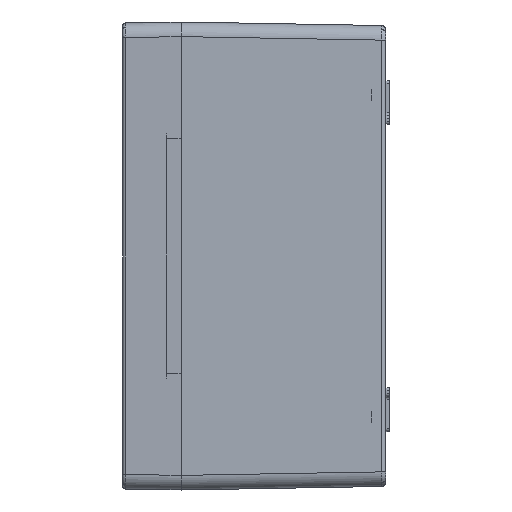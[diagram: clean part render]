
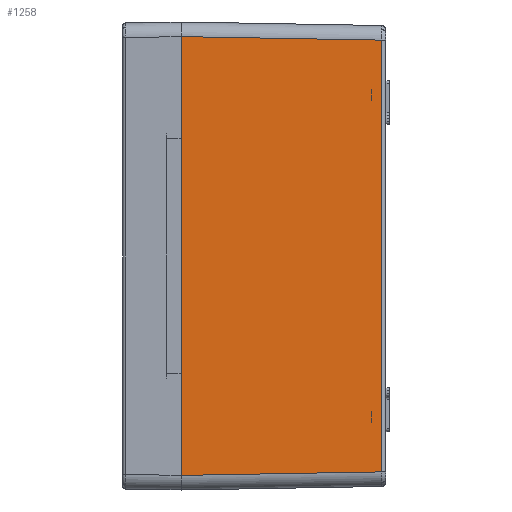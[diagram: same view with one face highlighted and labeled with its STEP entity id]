
A CAD part, left-side view. The second image highlights one B-rep face of the part: STEP entity #1258.
In plain terms, the highlighted planar face has unit normal (-1, -0.018, 0).
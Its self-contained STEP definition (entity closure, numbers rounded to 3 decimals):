
#21 = DIRECTION ( 'NONE',  ( 0., 0., 1. ) ) ;
#491 = CARTESIAN_POINT ( 'NONE',  ( -280., 0., 80. ) ) ;
#1071 = VECTOR ( 'NONE', #10093, 1000. ) ;
#1249 = EDGE_CURVE ( 'NONE', #3901, #10879, #2133, .T. ) ;
#1258 = ADVANCED_FACE ( 'NONE', ( #6884 ), #4893, .T. ) ;
#1367 = CARTESIAN_POINT ( 'NONE',  ( -278.804, -68.526, 80. ) ) ;
#1630 = LINE ( 'NONE', #7668, #4517 ) ;
#2133 = LINE ( 'NONE', #8108, #9771 ) ;
#2240 = CARTESIAN_POINT ( 'NONE',  ( -278.804, -68.526, -73.805 ) ) ;
#2414 = EDGE_LOOP ( 'NONE', ( #11711, #2932, #5030, #4744 ) ) ;
#2558 = DIRECTION ( 'NONE',  ( -0.017, 1., 0.017 ) ) ;
#2932 = ORIENTED_EDGE ( 'NONE', *, *, #13085, .T. ) ;
#3489 = AXIS2_PLACEMENT_3D ( 'NONE', #491, #5933, #13483 ) ;
#3901 = VERTEX_POINT ( 'NONE', #9869 ) ;
#4316 = LINE ( 'NONE', #1367, #1071 ) ;
#4517 = VECTOR ( 'NONE', #21, 1000. ) ;
#4744 = ORIENTED_EDGE ( 'NONE', *, *, #11881, .F. ) ;
#4893 = PLANE ( 'NONE',  #3489 ) ;
#5030 = ORIENTED_EDGE ( 'NONE', *, *, #11572, .T. ) ;
#5372 = CARTESIAN_POINT ( 'NONE',  ( -280., 0., 75.001 ) ) ;
#5933 = DIRECTION ( 'NONE',  ( -1., -0.017, 0. ) ) ;
#6884 = FACE_OUTER_BOUND ( 'NONE', #2414, .T. ) ;
#7668 = CARTESIAN_POINT ( 'NONE',  ( -280., 0., 80. ) ) ;
#7928 = LINE ( 'NONE', #10159, #11160 ) ;
#8108 = CARTESIAN_POINT ( 'NONE',  ( -279.953, -2.704, -74.954 ) ) ;
#8837 = VERTEX_POINT ( 'NONE', #5372 ) ;
#8921 = CARTESIAN_POINT ( 'NONE',  ( -278.804, -68.526, 73.805 ) ) ;
#9771 = VECTOR ( 'NONE', #11384, 1000. ) ;
#9869 = CARTESIAN_POINT ( 'NONE',  ( -280., 0., -75.001 ) ) ;
#10093 = DIRECTION ( 'NONE',  ( 0., 0., 1. ) ) ;
#10159 = CARTESIAN_POINT ( 'NONE',  ( -280.002, 0.087, 75.002 ) ) ;
#10879 = VERTEX_POINT ( 'NONE', #2240 ) ;
#11160 = VECTOR ( 'NONE', #2558, 1000. ) ;
#11384 = DIRECTION ( 'NONE',  ( 0.017, -1., 0.017 ) ) ;
#11572 = EDGE_CURVE ( 'NONE', #13595, #8837, #7928, .T. ) ;
#11711 = ORIENTED_EDGE ( 'NONE', *, *, #1249, .T. ) ;
#11881 = EDGE_CURVE ( 'NONE', #3901, #8837, #1630, .T. ) ;
#13085 = EDGE_CURVE ( 'NONE', #10879, #13595, #4316, .T. ) ;
#13483 = DIRECTION ( 'NONE',  ( 0.017, -1., 0. ) ) ;
#13595 = VERTEX_POINT ( 'NONE', #8921 ) ;
